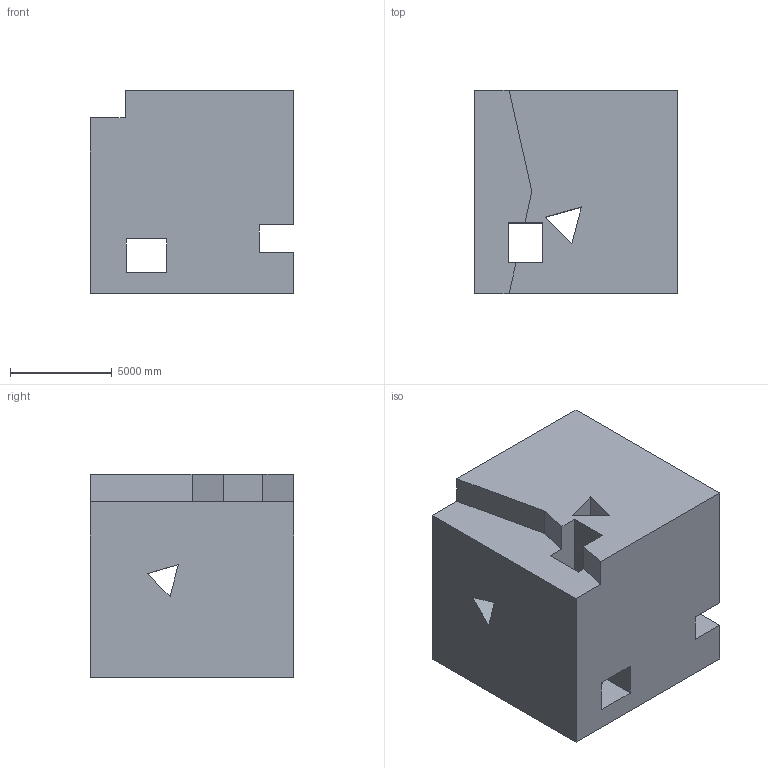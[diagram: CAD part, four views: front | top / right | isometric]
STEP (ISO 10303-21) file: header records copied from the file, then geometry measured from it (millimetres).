
FILE_DESCRIPTION (( 'STEP AP203' ), '1' );
FILE_NAME ('1746.STEP', '2022-08-19T12:20:13', ( 'user' ), ( '' ), 'SwSTEP 2.0', 'SolidWorks 2021', '' );
FILE_SCHEMA (( 'CONFIG_CONTROL_DESIGN' ));
Length unit declared in the file: centimetre
Products named in the file (1): 1746
Bounding box: 10000 x 10000 x 10000 mm (x, y, z)
Volume: 824030327005.4 mm3; surface area: 895361559.7 mm2
Topology: 2 solids, 2 shells, 47 faces, 144 edges, 96 vertices
Faces by surface type: plane 34, cylinder 13
Entity records: 2625 total; most frequent: CARTESIAN_POINT 1242, ORIENTED_EDGE 288, DIRECTION 242, EDGE_CURVE 144, LINE 118, VECTOR 118, VERTEX_POINT 96, AXIS2_PLACEMENT_3D 62
